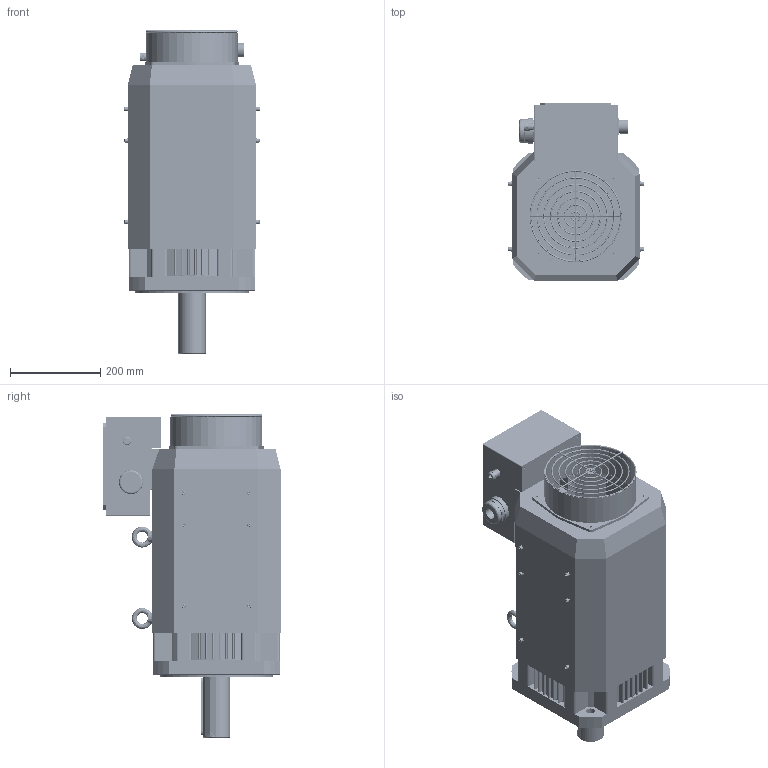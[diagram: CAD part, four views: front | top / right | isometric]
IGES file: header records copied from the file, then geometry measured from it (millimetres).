
Start section: SolidWorks IGES file using analytic representation for surfaces
Global section: file name: E:\00-工作任务\16-外形图\EMB\模型图\EMB-2BD\简易模型EMB-2BD\EMB-2BD.IGS,15HSolidWorks; native system: 2018; preprocessor: SolidWorks 2018; author: shenjianhong; date: 200417.170136; units: millimetre
Bounding box: 299.34 x 392 x 717 mm (x, y, z)
Surface area: 2632312 mm2 (no closed solid volume)
Topology: 0 solids, 0 shells, 2058 faces, 30720 edges, 30592 vertices
Faces by surface type: bspline 1087, revolution 971
